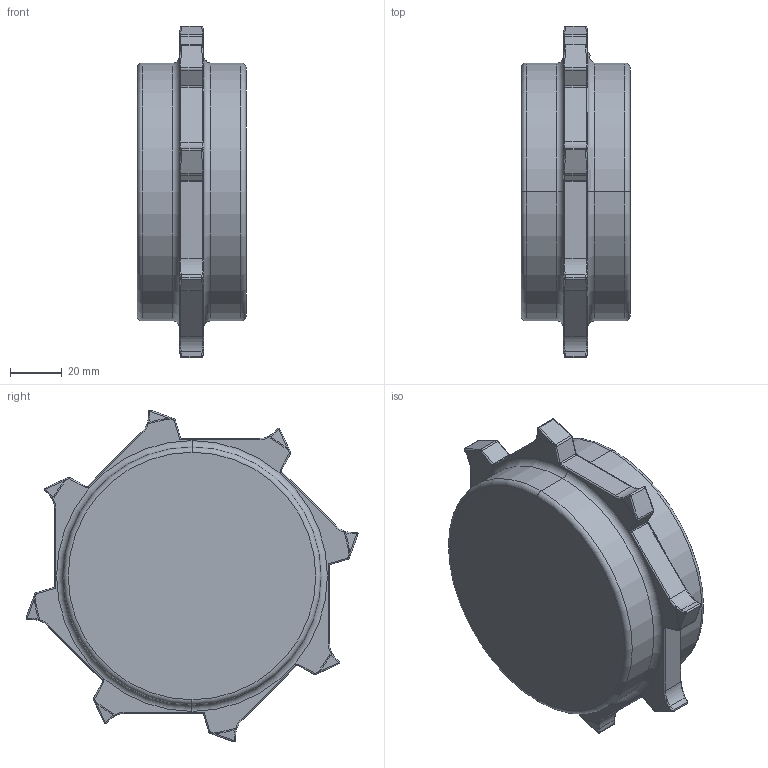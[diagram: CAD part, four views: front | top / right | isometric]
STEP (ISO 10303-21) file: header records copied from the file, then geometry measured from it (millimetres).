
FILE_DESCRIPTION((''),'2;1');
FILE_NAME('18Z08BB','2011-12-21T',('mth'),(''),'PRO/ENGINEER BY PARAMETRIC TECHNOLOGY CORPORATION, 2010280','PRO/ENGINEER BY PARAMETRIC TECHNOLOGY CORPORATION, 2010280','');
FILE_SCHEMA(('CONFIG_CONTROL_DESIGN','SHAPE_APPEARANCE_LAYERS_GROUPS'));
Length unit declared in the file: millimetre
Products named in the file (1): 18Z08BB
Bounding box: 42.6 x 128.76 x 128.76 mm (x, y, z)
Volume: 356520.8 mm3; surface area: 34151.2 mm2
Topology: 1 solids, 1 shells, 893 faces, 2343 edges, 1489 vertices
Faces by surface type: plane 615, bspline 94, cylinder 76, torus 74, cone 18, sphere 16
Entity records: 36060 total; most frequent: CARTESIAN_POINT 7457, ORIENTED_EDGE 4682, DIRECTION 4140, PRESENTATION_STYLE_ASSIGNMENT 2342, STYLED_ITEM 2342, CURVE_STYLE 2341, EDGE_CURVE 2341, VECTOR 1784
